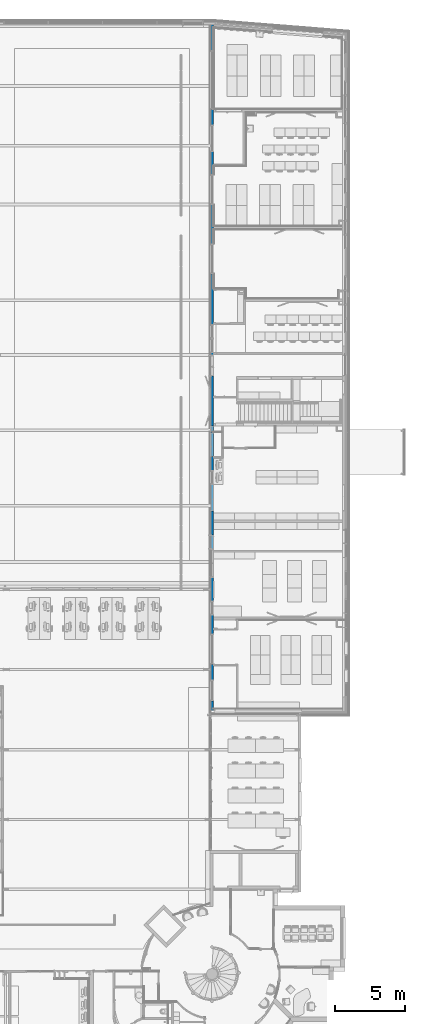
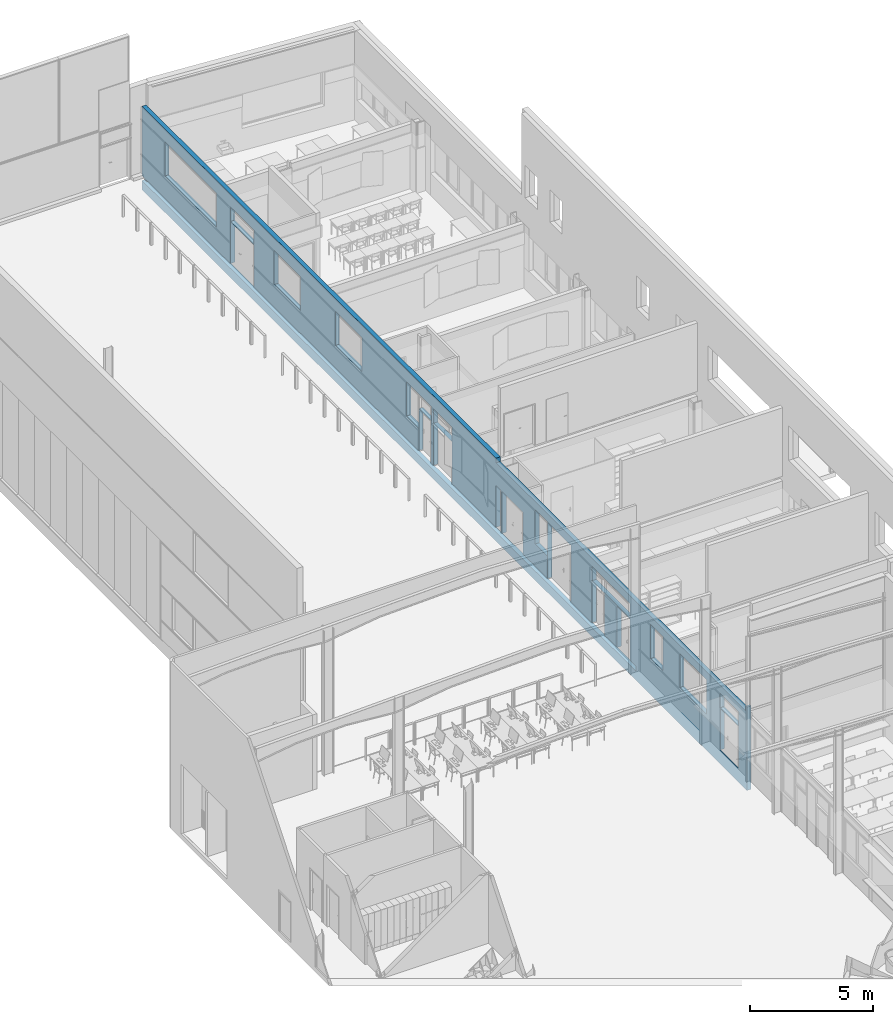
# One storey, part 74 of 137: 1 wall, 9 openings.
"""IFC2X3 building model written with IfcOpenShell, lengths in centimetres."""

import ifcopenshell
import ifcopenshell.guid

model = None  # the IFC model being written
_history = None  # IfcOwnerHistory: only IFC2X3 demands one
_inside = {}  # id of a spatial element -> (the spatial element, [elements in it])
_under = {}  # id of a project, library or spatial element -> (it, [spatial elements below it])
_declared = {}  # id of a project -> (the project, [libraries it declares])
_typed = {}  # id of a type object -> (the type object, [elements of that type])
_made_of = {}  # id of a material, layer set ... -> (it, [elements and type objects made of it])


def new_model(schema):
    """Start an empty IFC model of exactly this schema.

    Asked for "IFC4X3", IfcOpenShell would pick the latest addendum, in which some entities
    have other attributes; the version numbers below select the first issue.
    IFC2X3 requires an IfcOwnerHistory on every rooted entity: one is made here for all.
    """
    global model, _history
    if schema == "IFC4X3":
        model = ifcopenshell.file(schema_version=(4, 3, 0, 0))
    else:
        model = ifcopenshell.file(schema=schema)
    _inside.clear()
    _under.clear()
    _declared.clear()
    _typed.clear()
    _made_of.clear()
    _history = None
    if model.schema == "IFC2X3":
        org = make("IfcOrganization", Name="unknown")
        user = make(
            "IfcPersonAndOrganization",
            ThePerson=make("IfcPerson", FamilyName="unknown"),
            TheOrganization=org,
        )
        app = make(
            "IfcApplication",
            ApplicationDeveloper=org,
            Version="unknown",
            ApplicationFullName="unknown",
            ApplicationIdentifier="unknown",
        )
        _history = make(
            "IfcOwnerHistory",
            OwningUser=user,
            OwningApplication=app,
            ChangeAction="ADDED",
            CreationDate=0,
        )
    return model


def make(cls, **values):
    """One entity of the class cls with the attributes given. An attribute that is None is left unset."""
    return model.create_entity(
        cls, **{name: value for name, value in values.items() if value is not None}
    )


def entity(cls, *values):
    """Any entity or typed value of the class cls, its attributes in the order of the schema. None: left unset."""
    e = model.create_entity(cls)
    for i, value in enumerate(values):
        if value is not None:
            e[i] = value
    return e


def rooted(cls, **values):
    """An entity with a GlobalId (a new one), such as an element, a storey or a relation."""
    return make(cls, GlobalId=ifcopenshell.guid.new(), OwnerHistory=_history, **values)


def si_unit(unit_type, name, prefix=None):
    """IfcSIUnit, for example si_unit("LENGTHUNIT", "METRE", prefix="MILLI")."""
    return make("IfcSIUnit", UnitType=unit_type, Prefix=prefix, Name=name)


def converted_unit(unit_type, name, factor, base, dimensions=None, offset=None):
    """IfcConversionBasedUnit, such as the inch: factor (a typed value) times the base unit."""
    return make(
        "IfcConversionBasedUnit"
        if offset is None
        else "IfcConversionBasedUnitWithOffset",
        ConversionOffset=offset,
        Dimensions=None
        if dimensions is None
        else entity("IfcDimensionalExponents", *dimensions),
        UnitType=unit_type,
        Name=name,
        ConversionFactor=make(
            "IfcMeasureWithUnit", ValueComponent=factor, UnitComponent=base
        ),
    )


def derived_unit(unit_type, elements):
    """IfcDerivedUnit: a product of units, each with its exponent."""
    return make(
        "IfcDerivedUnit",
        Elements=[
            make("IfcDerivedUnitElement", Unit=unit, Exponent=power)
            for unit, power in elements
        ],
        UnitType=unit_type,
    )


def assignment(units):
    """IfcUnitAssignment: the units of a project."""
    return None if units is None else make("IfcUnitAssignment", Units=units)


def point(xyz):
    """IfcCartesianPoint."""
    return None if xyz is None else make("IfcCartesianPoint", Coordinates=xyz)


def direction(xyz):
    """IfcDirection."""
    return None if xyz is None else make("IfcDirection", DirectionRatios=xyz)


def frame(location, z_axis=None, x_axis=None):
    """IfcAxis2Placement3D, a coordinate frame: its origin and axes. An axis left out is left unset."""
    return make(
        "IfcAxis2Placement3D",
        Location=point(location),
        Axis=direction(z_axis),
        RefDirection=direction(x_axis),
    )


def frame_2d(location, x_axis=None):
    """IfcAxis2Placement2D, a coordinate frame in the plane: its origin and x axis."""
    return make(
        "IfcAxis2Placement2D", Location=point(location), RefDirection=direction(x_axis)
    )


def origin():
    """The frame at (0, 0, 0) with its axes left unset."""
    return frame((0.0, 0.0, 0.0))


def place(relative_to, where):
    """IfcLocalPlacement: puts the frame where relative to a parent placement (None: the world)."""
    return make(
        "IfcLocalPlacement", PlacementRelTo=relative_to, RelativePlacement=where
    )


def context(
    kind, dimensions, precision=None, world=None, true_north=None, identifier=None
):
    """IfcGeometricRepresentationContext, for example the 3D "Model" context."""
    return make(
        "IfcGeometricRepresentationContext",
        ContextIdentifier=identifier,
        ContextType=kind,
        CoordinateSpaceDimension=dimensions,
        Precision=precision,
        WorldCoordinateSystem=world,
        TrueNorth=true_north,
    )


def subcontext(parent, identifier, kind, view, scale=None):
    """IfcGeometricRepresentationSubContext, for example "Body" below "Model"."""
    return make(
        "IfcGeometricRepresentationSubContext",
        ContextIdentifier=identifier,
        ContextType=kind,
        ParentContext=parent,
        TargetScale=scale,
        TargetView=view,
    )


def project(units=None, contexts=None):
    """IfcProject with its units and contexts."""
    return rooted(
        "IfcProject",
        Name="project",
        RepresentationContexts=contexts,
        UnitsInContext=assignment(units),
    )


def spatial(cls, under=None, at=None, **own):
    """A site, building, storey or space (cls), placed at a placement, below another one or the project."""
    s = rooted(cls, ObjectPlacement=at, **own)
    if under is not None:
        _under.setdefault(under.id(), (under, []))[1].append(s)
    return s


def profile(cls, at=None, kind="AREA", **sizes):
    """A parametric profile (cls). Its sizes go by their IFC names, for example OverallWidth=200.0."""
    return make(cls, ProfileType=kind, Position=at, **sizes)


def rectangle(**sizes):
    """IfcRectangleProfileDef."""
    return profile("IfcRectangleProfileDef", **sizes)


def extrude(swept, where, along, depth):
    """IfcExtrudedAreaSolid: the profile swept, set in the frame where, extruded along a direction by depth."""
    return make(
        "IfcExtrudedAreaSolid",
        SweptArea=swept,
        Position=where,
        ExtrudedDirection=direction(along),
        Depth=depth,
    )


def faces_of(points, faces, orient=None, outer=None):
    """IfcFace entities. A face is a list of loops; a loop is a list of indices into points, from 0.

    orient and outer hold one flag for each loop. By default every Orientation is true, the
    first loop of a face is its IfcFaceOuterBound and the others are IfcFaceBound.
    """
    made = []
    for i, loops in enumerate(faces):
        bounds = []
        for j, loop in enumerate(loops):
            is_outer = j == 0 if outer is None else outer[i][j]
            bounds.append(
                make(
                    "IfcFaceOuterBound" if is_outer else "IfcFaceBound",
                    Bound=make("IfcPolyLoop", Polygon=[points[k] for k in loop]),
                    Orientation=True if orient is None else orient[i][j],
                )
            )
        made.append(make("IfcFace", Bounds=bounds))
    return made


def faceted_brep(points, faces, orient=None, outer=None, voids=None):
    """IfcFacetedBrep: a solid bounded by flat faces; with voids (closed shells), ...WithVoids."""
    shared = [point(p) for p in points]
    hull = make("IfcClosedShell", CfsFaces=faces_of(shared, faces, orient, outer))
    if voids is None:
        return make("IfcFacetedBrep", Outer=hull)
    return make(
        "IfcFacetedBrepWithVoids",
        Outer=hull,
        Voids=[
            make(cls, CfsFaces=faces_of(shared, fs, o, b)) for cls, fs, o, b in voids
        ],
    )


def shape(context_of_items, identifier, shape_type, items):
    """IfcShapeRepresentation: the items that make up one representation, for example the "Body"."""
    return make(
        "IfcShapeRepresentation",
        ContextOfItems=context_of_items,
        RepresentationIdentifier=identifier,
        RepresentationType=shape_type,
        Items=items,
    )


def material(Name=None, Category=None):
    """IfcMaterial."""
    return make("IfcMaterial", Name=Name, Category=Category)


def made_of(thing, what):
    """Note that an element or type object is made of a material, layer set ...; save() writes the relation."""
    if what is not None:
        _made_of.setdefault(what.id(), (what, []))[1].append(thing)
    return thing


def type_object(cls, material=None, **own):
    """A type object (cls), such as IfcWallType, which elements share."""
    return made_of(rooted(cls, **own), material)


def element(
    cls,
    number,
    at=None,
    inside=None,
    cuts=None,
    type_object=None,
    material=None,
    context=None,
    identifier="Body",
    shape_type=None,
    held_by="IfcProductDefinitionShape",
    body=None,
    shapes=None,
    **own,
):
    """One element of the class cls, such as IfcWall. Its Tag is "e" and its number.

    at: its placement. inside: the storey or other place that contains it. cuts: it is an
    opening in that element (IfcRelVoidsElement). A single representation is given by context,
    identifier, shape_type and body (its items); several are given by shapes. held_by: the class
    of the entity that holds the representations. save() writes the other relations.
    """
    e = rooted(cls, Tag="e%d" % number, ObjectPlacement=at, **own)
    if body is not None:
        shapes = [shape(context, identifier, shape_type, body)]
    if shapes is not None:
        e.Representation = make(held_by, Representations=shapes)
    if inside is not None:
        _inside.setdefault(inside.id(), (inside, []))[1].append(e)
    if cuts is not None:
        rooted(
            "IfcRelVoidsElement", RelatingBuildingElement=cuts, RelatedOpeningElement=e
        )
    if type_object is not None:
        _typed.setdefault(type_object.id(), (type_object, []))[1].append(e)
    return made_of(e, material)


def aggregate(whole, parts):
    """IfcRelAggregates: a whole, such as a stair, and the parts it consists of."""
    return rooted("IfcRelAggregates", RelatingObject=whole, RelatedObjects=parts)


def save(model, path):
    """Write the relations noted so far, then the file.

    IfcRelAggregates (storeys below a building ...), IfcRelContainedInSpatialStructure (elements
    in a storey), IfcRelDefinesByType, IfcRelAssociatesMaterial and IfcRelDeclares: one each for
    every whole, place, type object, material and project.
    """
    for whole, parts in _under.values():
        aggregate(whole, parts)
    for where, things in _inside.values():
        rooted(
            "IfcRelContainedInSpatialStructure",
            RelatedElements=things,
            RelatingStructure=where,
        )
    for kind, things in _typed.values():
        rooted("IfcRelDefinesByType", RelatedObjects=things, RelatingType=kind)
    for what, things in _made_of.values():
        rooted("IfcRelAssociatesMaterial", RelatedObjects=things, RelatingMaterial=what)
    for by, libraries in _declared.values():
        rooted("IfcRelDeclares", RelatingContext=by, RelatedDefinitions=libraries)
    model.write(path)


model = new_model("IFC2X3")

# Units and contexts
model_context = context("Model", 3, precision=0.001, world=origin(), true_north=direction((6.12303176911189e-17, 1.0)))
body_context = subcontext(model_context, "Body", "Model", "MODEL_VIEW")
ifc_project = project(units=[si_unit("LENGTHUNIT", "METRE", prefix="CENTI"), si_unit("AREAUNIT", "SQUARE_METRE"), si_unit("VOLUMEUNIT", "CUBIC_METRE"), converted_unit("PLANEANGLEUNIT", "DEGREE", entity("IfcRatioMeasure", 0.0174532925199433), si_unit("PLANEANGLEUNIT", "RADIAN"), dimensions=[0, 0, 0, 0, 0, 0, 0]), si_unit("MASSUNIT", "GRAM", prefix="KILO"), si_unit("TIMEUNIT", "SECOND"), si_unit("FREQUENCYUNIT", "HERTZ"), si_unit("THERMODYNAMICTEMPERATUREUNIT", "DEGREE_CELSIUS"), derived_unit("THERMALTRANSMITTANCEUNIT", [(si_unit("MASSUNIT", "GRAM", prefix="KILO"), 1), (si_unit("THERMODYNAMICTEMPERATUREUNIT", "KELVIN"), -1), (si_unit("TIMEUNIT", "SECOND"), -3)]), derived_unit("VOLUMETRICFLOWRATEUNIT", [(si_unit("LENGTHUNIT", "METRE"), 3), (si_unit("TIMEUNIT", "SECOND"), -1)]), si_unit("ELECTRICCURRENTUNIT", "AMPERE"), si_unit("ELECTRICVOLTAGEUNIT", "VOLT"), si_unit("POWERUNIT", "WATT"), si_unit("FORCEUNIT", "NEWTON", prefix="KILO"), si_unit("ILLUMINANCEUNIT", "LUX"), si_unit("LUMINOUSFLUXUNIT", "LUMEN"), si_unit("LUMINOUSINTENSITYUNIT", "CANDELA"), derived_unit("USERDEFINED", [(si_unit("MASSUNIT", "GRAM", prefix="KILO"), -1), (si_unit("LENGTHUNIT", "METRE"), -2), (si_unit("TIMEUNIT", "SECOND"), 3), (si_unit("LUMINOUSFLUXUNIT", "LUMEN"), 1)]), derived_unit("LINEARVELOCITYUNIT", [(si_unit("LENGTHUNIT", "METRE"), 1), (si_unit("TIMEUNIT", "SECOND"), -1)]), si_unit("PRESSUREUNIT", "PASCAL"), derived_unit("USERDEFINED", [(si_unit("LENGTHUNIT", "METRE"), -2), (si_unit("MASSUNIT", "GRAM", prefix="KILO"), 1), (si_unit("TIMEUNIT", "SECOND"), -2)])], contexts=[model_context])

# Site, building, storey
site_placement = place(None, frame((8.62739174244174, -249.285249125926, 0.0)))
site = spatial("IfcSite", under=ifc_project, at=site_placement, Name="Default", CompositionType="ELEMENT")
building_placement = place(site_placement, origin())
building = spatial("IfcBuilding", under=site, at=building_placement, CompositionType="ELEMENT")
storey_placement = place(building_placement, origin())
storey = spatial("IfcBuildingStorey", under=building, at=storey_placement, Name="RDC", CompositionType="ELEMENT", Elevation=-8.82465566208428e-11)

# Wall, openings
ifc_material = material(Name="Béton, coulé sur place, gris")
wall_type = type_object("IfcWallType", Name="Mur de base:ACOUST 7 + BET 20", PredefinedType="NOTDEFINED")
wall_placement = place(storey_placement, frame((3043.90482779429, 2644.98020806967, -70.0), z_axis=(0.0, 0.0, 1.0), x_axis=(0.0, 1.0, 0.0)))
wall = element("IfcWall", 1, at=wall_placement, inside=storey, type_object=wall_type, material=ifc_material, Name="Mur de base:ACOUST 7 + BET 20", ObjectType="Mur de base:ACOUST 7 + BET 20", context=body_context, shape_type="Brep", body=[
    faceted_brep([(0.0, -10.0, 413.0), (0.0, -10.0, 0.0), (648.204985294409, -10.0, 0.0), (668.204985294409, -10.0, 0.0), (1345.20498529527, -10.0, 0.0), (1365.20498529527, -10.0, 0.0), (2038.0, -10.0, 0.0), (2058.0, -10.0, 0.0), (4897.96686529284, -10.0, 0.0), (4897.96686529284, -10.0, 45.0), (2058.0, -10.0, 45.0), (2038.0, -10.0, 45.0), (1365.20498529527, -10.0, 45.0), (1345.20498529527, -10.0, 45.0), (668.204985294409, -10.0, 45.0), (648.204985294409, -10.0, 45.0), (10.0, -10.0, 45.0), (10.0, -10.0, 70.0), (66.8678563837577, -10.0, 70.0), (66.8678563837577, -10.0, 277.0), (215.867856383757, -10.0, 277.0), (215.867856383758, -10.0, 70.0), (648.204985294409, -10.0, 70.0), (668.204985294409, -10.0, 70.0), (951.704985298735, -10.0, 70.0), (951.704985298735, -10.0, 274.0), (1054.70498529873, -10.0, 274.0), (1054.70498529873, -10.0, 70.0), (1157.20498529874, -10.0, 70.0), (1157.20498529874, -10.0, 277.499999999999), (1257.20498529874, -10.0, 277.499999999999), (1257.20498529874, -10.0, 70.0), (1345.20498529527, -10.0, 70.0), (1365.20498529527, -10.0, 70.0), (1430.20498529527, -10.0, 70.0), (1430.20498529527, -10.0, 349.0), (1619.20498529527, -10.0, 349.0), (1619.20498529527, -10.0, 70.0), (1819.0, -10.0, 70.0), (1819.0, -10.0, 277.0), (1988.0, -10.0, 277.0), (1988.0, -10.0, 70.0), (1998.0, -10.0, 70.0), (1998.0, -10.0, 277.499999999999), (2038.0, -10.0, 277.499999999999), (2038.0, -10.0, 70.0), (2058.0, -10.0, 70.0), (2396.25000006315, -10.0, 70.0), (2396.25000006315, -10.0, 277.0), (2545.25000006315, -10.0, 277.0), (2545.25000006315, -10.0, 70.0), (2565.25000006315, -10.0, 70.0), (2565.25000006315, -10.0, 277.499999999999), (2665.25000006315, -10.0, 277.499999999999), (2665.25000006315, -10.0, 70.0), (4006.79999039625, -10.0, 70.0), (4006.79999039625, -10.0, 277.0), (4195.79999039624, -10.0, 277.0), (4195.79999039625, -10.0, 70.0), (4897.96686529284, -10.0, 70.0), (4897.96686529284, -10.0, 413.0), (3470.0, -10.0, 413.0), (2393.0, -10.0, 413.0), (2038.0, -10.0, 413.0), (2038.0, -10.0, 390.0), (10.0, -10.0, 390.0), (10.0, -10.0, 413.0), (1258.20498529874, -10.0, 350.0), (1258.20498529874, -10.0, 278.0), (1156.20498529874, -10.0, 278.0), (1156.20498529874, -10.0, 278.499999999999), (951.704985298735, -10.0, 278.499999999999), (951.704985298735, -10.0, 350.0), (2546.25000006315, -10.0, 350.0), (2546.25000006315, -10.0, 278.0), (2395.25000006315, -10.0, 278.0), (2395.25000006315, -10.0, 350.0), (4309.72053001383, -10.0, 180.0), (4309.72053001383, -10.0, 350.0), (4729.72053001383, -10.0, 350.0), (4729.72053001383, -10.0, 180.0), (3626.29501483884, -10.0, 180.0), (3626.29501483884, -10.0, 350.0), (3841.29501483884, -10.0, 350.0), (3841.29501483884, -10.0, 180.0), (3128.75000006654, -10.0, 180.0), (3128.75000006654, -10.0, 350.0), (3343.75000006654, -10.0, 350.0), (3343.75000006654, -10.0, 180.0), (217.867856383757, -10.0, 350.0), (217.867856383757, -10.0, 278.0), (66.8678563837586, -10.0, 278.0), (66.8678563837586, -10.0, 350.0), (2666.25000006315, -10.0, 180.0), (2666.25000006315, -10.0, 278.0), (2564.25000006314, -10.0, 278.0), (2564.25000006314, -10.0, 350.0), (2766.25000006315, -10.0, 350.0), (2766.25000006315, -10.0, 180.0), (682.204985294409, -10.0, 180.0), (682.204985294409, -10.0, 350.0), (782.204985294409, -10.0, 350.0), (782.204985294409, -10.0, 180.0), (330.0, -10.0, 180.0), (330.0, -10.0, 350.0), (545.0, -10.0, 350.0), (545.0, -10.0, 180.0), (1620.20498529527, -10.0, 180.0), (1620.20498529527, -10.0, 350.0), (1720.20498529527, -10.0, 350.0), (1720.20498529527, -10.0, 180.0), (4195.79999039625, -10.0, 350.0), (4195.79999039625, -10.0, 278.0), (4004.79999039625, -10.0, 278.0), (4004.79999039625, -10.0, 350.0), (4916.99634334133, 10.0, 0.0), (0.0, 10.0, 0.0), (0.0, 10.0, 413.0), (10.0, 10.0, 413.0), (10.0, 10.0, 390.0), (160.0, 10.0, 390.0), (2038.0, 10.0, 390.0), (2038.0, 10.0, 413.0), (2393.0, 10.0, 413.0), (4916.0, 10.0, 413.0), (4916.99634334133, 10.0, 413.0), (4916.99634334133, 10.0, 70.0), (4195.79999039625, 10.0, 70.0), (4195.79999039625, 10.0, 277.0), (4006.79999039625, 10.0, 277.0), (4006.79999039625, 10.0, 70.0), (2665.25000006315, 10.0, 70.0), (2665.25000006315, 10.0, 277.499999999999), (2565.25000006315, 10.0, 277.499999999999), (2565.25000006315, 10.0, 70.0), (2545.25000006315, 10.0, 70.0), (2545.25000006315, 10.0, 277.0), (2396.25000006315, 10.0, 277.0), (2396.25000006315, 10.0, 70.0), (2038.0, 10.0, 70.0), (2038.0, 10.0, 277.499999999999), (1998.0, 10.0, 277.499999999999), (1998.0, 10.0, 70.0), (1988.0, 10.0, 70.0), (1988.0, 10.0, 277.0), (1819.0, 10.0, 277.0), (1819.0, 10.0, 70.0), (1619.20498529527, 10.0, 70.0), (1619.20498529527, 10.0, 349.0), (1430.20498529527, 10.0, 349.0), (1430.20498529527, 10.0, 70.0), (1257.20498529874, 10.0, 70.0), (1257.20498529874, 10.0, 277.499999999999), (1157.20498529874, 10.0, 277.499999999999), (1157.20498529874, 10.0, 70.0), (1054.70498529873, 10.0, 70.0), (1054.70498529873, 10.0, 274.0), (951.704985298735, 10.0, 274.0), (951.704985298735, 10.0, 70.0), (902.000394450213, 10.0, 70.0), (902.000394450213, 10.0, 45.0), (4916.99634334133, 10.0, 45.0), (1258.20498529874, 10.0, 278.0), (1258.20498529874, 10.0, 350.0), (951.704985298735, 10.0, 350.0), (951.704985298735, 10.0, 278.499999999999), (1156.20498529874, 10.0, 278.499999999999), (1156.20498529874, 10.0, 278.0), (2546.25000006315, 10.0, 278.0), (2546.25000006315, 10.0, 350.0), (2395.25000006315, 10.0, 350.0), (2395.25000006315, 10.0, 278.0), (4309.72053001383, 10.0, 350.0), (4309.72053001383, 10.0, 180.0), (4729.72053001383, 10.0, 180.0), (4729.72053001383, 10.0, 350.0), (3626.29501483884, 10.0, 350.0), (3626.29501483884, 10.0, 180.0), (3841.29501483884, 10.0, 180.0), (3841.29501483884, 10.0, 350.0), (3128.75000006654, 10.0, 350.0), (3128.75000006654, 10.0, 180.0), (3343.75000006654, 10.0, 180.0), (3343.75000006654, 10.0, 350.0), (217.867856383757, 10.0, 278.0), (217.867856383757, 10.0, 350.0), (66.8678563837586, 10.0, 350.0), (66.8678563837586, 10.0, 278.0), (2666.25000006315, 10.0, 278.0), (2666.25000006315, 10.0, 180.0), (2766.25000006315, 10.0, 180.0), (2766.25000006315, 10.0, 350.0), (2564.25000006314, 10.0, 350.0), (2564.25000006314, 10.0, 278.0), (682.204985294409, 10.0, 350.0), (682.204985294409, 10.0, 180.0), (782.204985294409, 10.0, 180.0), (782.204985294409, 10.0, 350.0), (330.0, 10.0, 350.0), (330.0, 10.0, 180.0), (545.0, 10.0, 180.0), (545.0, 10.0, 350.0), (215.867856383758, 10.0, 70.0), (215.867856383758, 10.0, 277.0), (66.8678563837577, 10.0, 277.0), (66.8678563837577, 10.0, 70.0), (1620.20498529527, 10.0, 350.0), (1620.20498529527, 10.0, 180.0), (1720.20498529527, 10.0, 180.0), (1720.20498529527, 10.0, 350.0), (4195.79999039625, 10.0, 278.0), (4195.79999039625, 10.0, 350.0), (4004.79999039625, 10.0, 350.0), (4004.79999039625, 10.0, 278.0), (4916.99634334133, -10.0, 0.0), (4915.37693321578, -10.0, 0.0), (4898.07504065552, -8.63192160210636, 0.0), (4916.99634334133, -10.0, 413.0), (4916.99634334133, -1.99804399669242, 45.0), (4916.99634334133, -1.99804399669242, 70.0), (4898.07504065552, -8.63192160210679, 413.0), (4915.37693321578, -10.0, 413.0), (4916.0, -10.0, 413.0), (215.867856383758, 6.0, 70.0), (66.8678563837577, 6.0, 70.0), (902.000394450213, 6.0, 45.0), (10.0, 6.0, 45.0), (4898.07504065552, -8.63192160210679, 45.0), (4898.59958816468, -1.99804399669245, 45.0), (4898.59958816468, -1.99804399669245, 70.0), (4898.07504065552, -8.63192160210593, 70.0), (10.0, 6.0, 70.0), (902.000394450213, 6.0, 70.0)], [[[0, 1, 2, 3, 4, 5, 6, 7, 8, 9, 10, 11, 12, 13, 14, 15, 16, 17, 18, 19, 20, 21, 22, 23, 24, 25, 26, 27, 28, 29, 30, 31, 32, 33, 34, 35, 36, 37, 38, 39, 40, 41, 42, 43, 44, 45, 46, 47, 48, 49, 50, 51, 52, 53, 54, 55, 56, 57, 58, 59, 60, 61, 62, 63, 64, 65, 66], [67, 68, 69, 70, 71, 72], [73, 74, 75, 76], [77, 78, 79, 80], [81, 82, 83, 84], [85, 86, 87, 88], [89, 90, 91, 92], [93, 94, 95, 96, 97, 98], [99, 100, 101, 102], [103, 104, 105, 106], [107, 108, 109, 110], [111, 112, 113, 114]], [[115, 116, 117, 118, 119, 120, 121, 122, 123, 124, 125, 126, 127, 128, 129, 130, 131, 132, 133, 134, 135, 136, 137, 138, 139, 140, 141, 142, 143, 144, 145, 146, 147, 148, 149, 150, 151, 152, 153, 154, 155, 156, 157, 158, 159, 160, 161], [162, 163, 164, 165, 166, 167], [168, 169, 170, 171], [172, 173, 174, 175], [176, 177, 178, 179], [180, 181, 182, 183], [184, 185, 186, 187], [188, 189, 190, 191, 192, 193], [194, 195, 196, 197], [198, 199, 200, 201], [202, 203, 204, 205], [206, 207, 208, 209], [210, 211, 212, 213]], [[116, 115, 214, 215, 216, 8, 7, 6, 5, 4, 3, 2, 1]], [[217, 214, 115, 161, 218, 219, 126, 125]], [[217, 125, 124, 123, 122, 63, 62, 61, 60, 220, 221, 222]], [[1, 0, 117, 116]], [[57, 128, 127, 58]], [[128, 57, 56, 129]], [[129, 56, 55, 130]], [[137, 48, 47, 138]], [[48, 137, 136, 49]], [[49, 136, 135, 50]], [[162, 68, 67, 163]], [[69, 167, 166, 70]], [[68, 162, 167, 69]], [[168, 74, 73, 169]], [[169, 73, 76, 170]], [[170, 76, 75, 171]], [[74, 168, 171, 75]], [[77, 173, 172, 78]], [[78, 172, 175, 79]], [[79, 175, 174, 80]], [[173, 77, 80, 174]], [[81, 177, 176, 82]], [[82, 176, 179, 83]], [[83, 179, 178, 84]], [[177, 81, 84, 178]], [[180, 86, 85, 181]], [[86, 180, 183, 87]], [[87, 183, 182, 88]], [[181, 85, 88, 182]], [[184, 90, 89, 185]], [[185, 89, 92, 186]], [[186, 92, 91, 187]], [[90, 184, 187, 91]], [[93, 189, 188, 94]], [[97, 191, 190, 98]], [[189, 93, 98, 190]], [[99, 195, 194, 100]], [[100, 194, 197, 101]], [[101, 197, 196, 102]], [[195, 99, 102, 196]], [[103, 199, 198, 104]], [[104, 198, 201, 105]], [[105, 201, 200, 106]], [[199, 103, 106, 200]], [[149, 35, 34, 150]], [[35, 149, 148, 36]], [[36, 148, 147, 37]], [[145, 39, 38, 146]], [[39, 145, 144, 40]], [[40, 144, 143, 41]], [[157, 25, 24, 158]], [[25, 157, 156, 26]], [[26, 156, 155, 27]], [[133, 52, 51, 134]], [[52, 133, 132, 53]], [[53, 132, 131, 54]], [[191, 97, 96, 192]], [[192, 96, 95, 193]], [[193, 95, 94, 188]], [[119, 65, 64, 121, 120]], [[65, 119, 118, 66]], [[20, 203, 202, 223, 21]], [[203, 20, 19, 204]], [[204, 19, 18, 224, 205]], [[202, 205, 224, 223]], [[153, 29, 28, 154]], [[29, 153, 152, 30]], [[30, 152, 151, 31]], [[45, 44, 140, 139]], [[44, 43, 141, 140]], [[43, 42, 142, 141]], [[107, 207, 206, 108]], [[108, 206, 209, 109]], [[109, 209, 208, 110]], [[207, 107, 110, 208]], [[121, 64, 63, 122]], [[210, 112, 111, 211]], [[211, 111, 114, 212]], [[212, 114, 113, 213]], [[112, 210, 213, 113]], [[225, 226, 16, 15, 14, 13, 12, 11, 10, 9, 227, 228, 218, 161, 160]], [[59, 58, 127, 126, 219, 229, 230]], [[228, 229, 219, 218]], [[226, 231, 17, 16]], [[226, 225, 232, 223, 224, 231]], [[232, 225, 160, 159]], [[229, 228, 227, 230]], [[216, 227, 9, 8]], [[227, 216, 215, 221, 220, 230]], [[71, 165, 164, 72]], [[163, 67, 72, 164]], [[165, 71, 70, 166]], [[230, 220, 60, 59]], [[55, 54, 131, 130]], [[51, 50, 135, 134]], [[47, 46, 45, 139, 138]], [[42, 41, 143, 142]], [[38, 37, 147, 146]], [[34, 33, 32, 31, 151, 150]], [[28, 27, 155, 154]], [[17, 231, 224, 18]], [[223, 232, 159, 158, 24, 23, 22, 21]], [[117, 0, 66, 118]], [[214, 217, 222, 221, 215]]]),
])
opening_1_placement = place(wall_placement, frame((4006.79999039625, -10.0, 70.0)))
element("IfcOpeningElement", 2, at=opening_1_placement, cuts=wall, Name="Double(R)_bois_mu:183 x 204 cm:1", ObjectType="Opening", context=body_context, shape_type="SweptSolid", body=[
    extrude(rectangle(XDim=206.999999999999, YDim=189.0, at=frame_2d((103.499999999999, 94.4999999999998), x_axis=(1.0, 0.0))), frame((0.0, 0.0, 0.0), z_axis=(0.0, 1.0, 0.0), x_axis=(0.0, 0.0, 1.0)), (0.0, 0.0, 1.0), 20.0),
])
opening_2_placement = place(wall_placement, frame((2545.25000006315, 10.0, 70.0)))
element("IfcOpeningElement", 3, at=opening_2_placement, cuts=wall, Name="Tierce(R)_bois_mu:143 x 204 cm:1", ObjectType="Opening", context=body_context, shape_type="SweptSolid", body=[
    extrude(rectangle(XDim=206.999999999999, YDim=149.0, at=frame_2d((103.499999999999, 74.4999999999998), x_axis=(1.0, 0.0))), frame((0.0, 0.0, 0.0), z_axis=(0.0, -1.0, 0.0), x_axis=(0.0, 0.0, 1.0)), (0.0, 0.0, 1.0), 20.0),
])
opening_3_placement = place(wall_placement, frame((1619.20498529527, 10.0, 70.0)))
element("IfcOpeningElement", 4, at=opening_3_placement, cuts=wall, Name="Double(R)_bois_mu:183 x 280 cm:1", ObjectType="Opening", context=body_context, shape_type="SweptSolid", body=[
    extrude(rectangle(XDim=279.0, YDim=189.0, at=frame_2d((139.5, 94.4999999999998), x_axis=(1.0, 0.0))), frame((0.0, 0.0, 0.0), z_axis=(0.0, -1.0, 0.0), x_axis=(0.0, 0.0, 1.0)), (0.0, 0.0, 1.0), 20.0),
])
opening_4_placement = place(wall_placement, frame((1819.0, -10.0, 70.0)))
element("IfcOpeningElement", 5, at=opening_4_placement, cuts=wall, Name="Double(R)_bois_mu:163 x 204 cm:1", ObjectType="Opening", context=body_context, shape_type="SweptSolid", body=[
    extrude(rectangle(XDim=206.999999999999, YDim=169.0, at=frame_2d((103.499999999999, 84.4999999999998), x_axis=(1.0, 0.0))), frame((0.0, 0.0, 0.0), z_axis=(0.0, 1.0, 0.0), x_axis=(0.0, 0.0, 1.0)), (0.0, 0.0, 1.0), 20.0),
])
opening_5_placement = place(wall_placement, frame((1054.70498529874, 10.0, 70.0)))
element("IfcOpeningElement", 6, at=opening_5_placement, cuts=wall, Name="Coulissante - Apparente:1.00m x 2.04m:1", ObjectType="Opening", context=body_context, shape_type="SweptSolid", body=[
    extrude(rectangle(XDim=203.999999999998, YDim=103.0, at=frame_2d((101.999999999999, 51.4999999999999), x_axis=(1.0, 0.0))), frame((0.0, 0.0, 0.0), z_axis=(0.0, -1.0, 0.0), x_axis=(0.0, 0.0, 1.0)), (0.0, 0.0, 1.0), 20.0),
])
opening_6_placement = place(wall_placement, frame((2665.25000006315, 10.0, 70.0)))
element("IfcOpeningElement", 7, at=opening_6_placement, cuts=wall, Name="Simple(R)_bois_mu:93 x 204 cm:1", ObjectType="Opening", context=body_context, shape_type="SweptSolid", body=[
    extrude(rectangle(XDim=207.499999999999, YDim=99.9999999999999, at=frame_2d((103.749999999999, 50.0), x_axis=(1.0, 0.0))), frame((0.0, 0.0, 0.0), z_axis=(0.0, -1.0, 0.0), x_axis=(0.0, 0.0, 1.0)), (0.0, 0.0, 1.0), 20.0),
])
opening_7_placement = place(wall_placement, frame((66.8678563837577, -10.0, 70.0)))
element("IfcOpeningElement", 8, at=opening_7_placement, cuts=wall, Name="Tierce(R)_bois_mu:143 x 204 cm:1", ObjectType="Opening", context=body_context, shape_type="SweptSolid", body=[
    extrude(rectangle(XDim=206.999999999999, YDim=149.0, at=frame_2d((103.499999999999, 74.4999999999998), x_axis=(1.0, 0.0))), frame((0.0, 0.0, 0.0), z_axis=(0.0, 1.0, 0.0), x_axis=(0.0, 0.0, 1.0)), (0.0, 0.0, 1.0), 20.0),
])
opening_8_placement = place(wall_placement, frame((1257.20498529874, 10.0, 70.0)))
element("IfcOpeningElement", 9, at=opening_8_placement, cuts=wall, Name="Simple(R)_bois_mu:93 x 204 cm:1", ObjectType="Opening", context=body_context, shape_type="SweptSolid", body=[
    extrude(rectangle(XDim=207.499999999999, YDim=99.9999999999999, at=frame_2d((103.749999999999, 50.0), x_axis=(1.0, 0.0))), frame((0.0, 0.0, 0.0), z_axis=(0.0, -1.0, 0.0), x_axis=(0.0, 0.0, 1.0)), (0.0, 0.0, 1.0), 20.0),
])
opening_9_placement = place(wall_placement, frame((1998.0, -10.0, 70.0)))
element("IfcOpeningElement", 10, at=opening_9_placement, cuts=wall, Name="Simple(R)_bois_mu:33 x 204 cm:1", ObjectType="Opening", context=body_context, shape_type="SweptSolid", body=[
    extrude(rectangle(XDim=207.499999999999, YDim=40.0, at=frame_2d((103.749999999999, 20.0), x_axis=(1.0, 0.0))), frame((0.0, 0.0, 0.0), z_axis=(0.0, 1.0, 0.0), x_axis=(0.0, 0.0, 1.0)), (0.0, 0.0, 1.0), 20.0),
])

save(model, "model.ifc")
